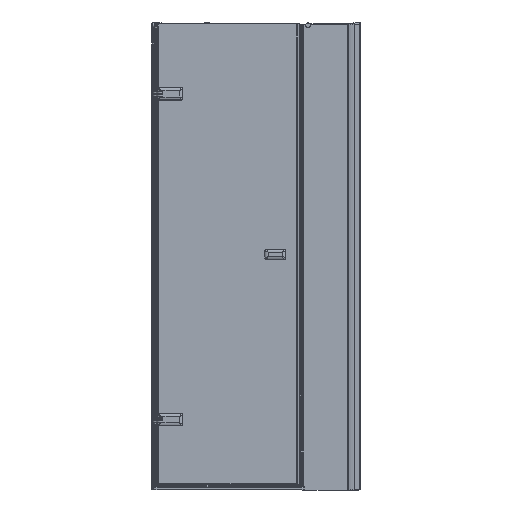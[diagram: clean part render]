
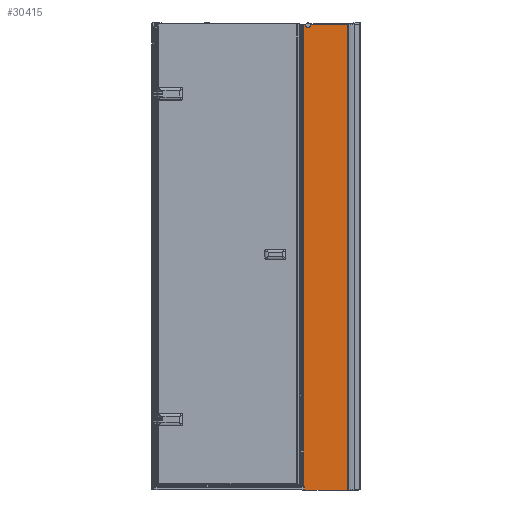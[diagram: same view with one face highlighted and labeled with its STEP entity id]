
A CAD part, front view. The second image highlights one B-rep face of the part: STEP entity #30415.
In plain terms, the highlighted planar face has unit normal (0, -1, 0).
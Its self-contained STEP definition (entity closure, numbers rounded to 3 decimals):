
#1994=LINE($,#63260,#4687);
#1995=LINE($,#63262,#4688);
#1996=LINE($,#63264,#4689);
#1997=LINE($,#63268,#4690);
#1998=LINE($,#63270,#4691);
#1999=LINE($,#63272,#4692);
#2000=LINE($,#63274,#4693);
#2001=LINE($,#63276,#4694);
#2002=LINE($,#63278,#4695);
#2003=LINE($,#63280,#4696);
#2004=LINE($,#63281,#4697);
#4687=VECTOR($,#38779,16.423);
#4688=VECTOR($,#38780,1997.);
#4689=VECTOR($,#38781,9.);
#4690=VECTOR($,#38784,1.);
#4691=VECTOR($,#38785,7.5);
#4692=VECTOR($,#38786,1.);
#4693=VECTOR($,#38787,238.5);
#4694=VECTOR($,#38788,1.);
#4695=VECTOR($,#38789,43.);
#4696=VECTOR($,#38790,2000.);
#4697=VECTOR($,#38791,164.716);
#7609=FACE_OUTER_BOUND($,#9355,.T.);
#9355=EDGE_LOOP($,(#23130,#23131,#23132,#23133,#23134,#23135,#23136,#23137,
#23138,#23139,#23140,#23141,#23142));
#10869=CIRCLE($,#32782,10.);
#10874=CIRCLE($,#32798,2.);
#13054=VERTEX_POINT($,#63224);
#13057=VERTEX_POINT($,#63229);
#13062=VERTEX_POINT($,#63259);
#13063=VERTEX_POINT($,#63261);
#13064=VERTEX_POINT($,#63263);
#13065=VERTEX_POINT($,#63265);
#13066=VERTEX_POINT($,#63267);
#13067=VERTEX_POINT($,#63269);
#13068=VERTEX_POINT($,#63271);
#13069=VERTEX_POINT($,#63273);
#13070=VERTEX_POINT($,#63275);
#13071=VERTEX_POINT($,#63277);
#13072=VERTEX_POINT($,#63279);
#16631=EDGE_CURVE($,#13057,#13054,#10869,.T.);
#16644=EDGE_CURVE($,#13062,#13057,#1994,.T.);
#16645=EDGE_CURVE($,#13062,#13063,#1995,.T.);
#16646=EDGE_CURVE($,#13064,#13063,#1996,.T.);
#16647=EDGE_CURVE($,#13065,#13064,#10874,.T.);
#16648=EDGE_CURVE($,#13066,#13065,#1997,.T.);
#16649=EDGE_CURVE($,#13067,#13066,#1998,.T.);
#16650=EDGE_CURVE($,#13067,#13068,#1999,.T.);
#16651=EDGE_CURVE($,#13069,#13068,#2000,.T.);
#16652=EDGE_CURVE($,#13070,#13069,#2001,.T.);
#16653=EDGE_CURVE($,#13070,#13071,#2002,.T.);
#16654=EDGE_CURVE($,#13072,#13071,#2003,.T.);
#16655=EDGE_CURVE($,#13054,#13072,#2004,.T.);
#23130=ORIENTED_EDGE($,*,*,#16631,.F.);
#23131=ORIENTED_EDGE($,*,*,#16644,.F.);
#23132=ORIENTED_EDGE($,*,*,#16645,.T.);
#23133=ORIENTED_EDGE($,*,*,#16646,.F.);
#23134=ORIENTED_EDGE($,*,*,#16647,.F.);
#23135=ORIENTED_EDGE($,*,*,#16648,.F.);
#23136=ORIENTED_EDGE($,*,*,#16649,.F.);
#23137=ORIENTED_EDGE($,*,*,#16650,.T.);
#23138=ORIENTED_EDGE($,*,*,#16651,.F.);
#23139=ORIENTED_EDGE($,*,*,#16652,.F.);
#23140=ORIENTED_EDGE($,*,*,#16653,.T.);
#23141=ORIENTED_EDGE($,*,*,#16654,.F.);
#23142=ORIENTED_EDGE($,*,*,#16655,.F.);
#27379=PLANE($,#32797);
#30415=ADVANCED_FACE($,(#7609),#27379,.F.);
#32782=AXIS2_PLACEMENT_3D($,#63231,#38739,#38740);
#32797=AXIS2_PLACEMENT_3D($,#63258,#38777,#38778);
#32798=AXIS2_PLACEMENT_3D($,#63266,#38782,#38783);
#38739=DIRECTION('center_axis',(0.,-1.,0.));
#38740=DIRECTION('ref_axis',(1.,0.,0.));
#38777=DIRECTION('center_axis',(0.,1.,0.));
#38778=DIRECTION('ref_axis',(1.,0.,0.));
#38779=DIRECTION($,(1.,0.,0.));
#38780=DIRECTION($,(0.,0.,-1.));
#38781=DIRECTION($,(-1.,0.,0.));
#38782=DIRECTION('center_axis',(0.,-1.,0.));
#38783=DIRECTION('ref_axis',(0.707,0.,0.707));
#38784=DIRECTION($,(0.,0.,1.));
#38785=DIRECTION($,(1.,0.,0.));
#38786=DIRECTION($,(0.,0.,-1.));
#38787=DIRECTION($,(-1.,0.,0.));
#38788=DIRECTION($,(0.,0.,-1.));
#38789=DIRECTION($,(-1.,0.,0.));
#38790=DIRECTION($,(0.,0.,-1.));
#38791=DIRECTION($,(1.,0.,0.));
#63224=CARTESIAN_POINT('',(1938.902,-34.044,1484.944));
#63229=CARTESIAN_POINT('',(1921.042,-34.044,1484.944));
#63231=CARTESIAN_POINT('Origin',(1929.972,-34.044,1480.444));
#63258=CARTESIAN_POINT('Origin',(1904.619,-34.044,1484.944));
#63259=CARTESIAN_POINT('',(1904.619,-34.044,1484.944));
#63260=CARTESIAN_POINT($,(1904.619,-34.044,1484.944));
#63261=CARTESIAN_POINT('',(1904.619,-34.044,-512.056));
#63262=CARTESIAN_POINT($,(1904.619,-34.044,1484.944));
#63263=CARTESIAN_POINT('',(1913.619,-34.044,-512.056));
#63264=CARTESIAN_POINT($,(1909.119,-34.044,-512.056));
#63265=CARTESIAN_POINT('',(1915.619,-34.044,-514.056));
#63266=CARTESIAN_POINT('Origin',(1913.619,-34.044,-514.056));
#63267=CARTESIAN_POINT('',(1915.619,-34.044,-515.056));
#63268=CARTESIAN_POINT($,(1915.619,-34.044,489.588));
#63269=CARTESIAN_POINT('',(1908.119,-34.044,-515.056));
#63270=CARTESIAN_POINT($,(1910.119,-34.044,-515.056));
#63271=CARTESIAN_POINT('',(1908.119,-34.044,-516.056));
#63272=CARTESIAN_POINT($,(1908.119,-34.044,-515.056));
#63273=CARTESIAN_POINT('',(2146.619,-34.044,-516.056));
#63274=CARTESIAN_POINT($,(2146.619,-34.044,-516.056));
#63275=CARTESIAN_POINT('',(2146.619,-34.044,-515.056));
#63276=CARTESIAN_POINT($,(2146.619,-34.044,-515.056));
#63277=CARTESIAN_POINT('',(2103.619,-34.044,-515.056));
#63278=CARTESIAN_POINT($,(2086.119,-34.044,-515.056));
#63279=CARTESIAN_POINT('',(2103.619,-34.044,1484.944));
#63280=CARTESIAN_POINT($,(2103.619,-34.044,484.944));
#63281=CARTESIAN_POINT($,(1904.619,-34.044,1484.944));
